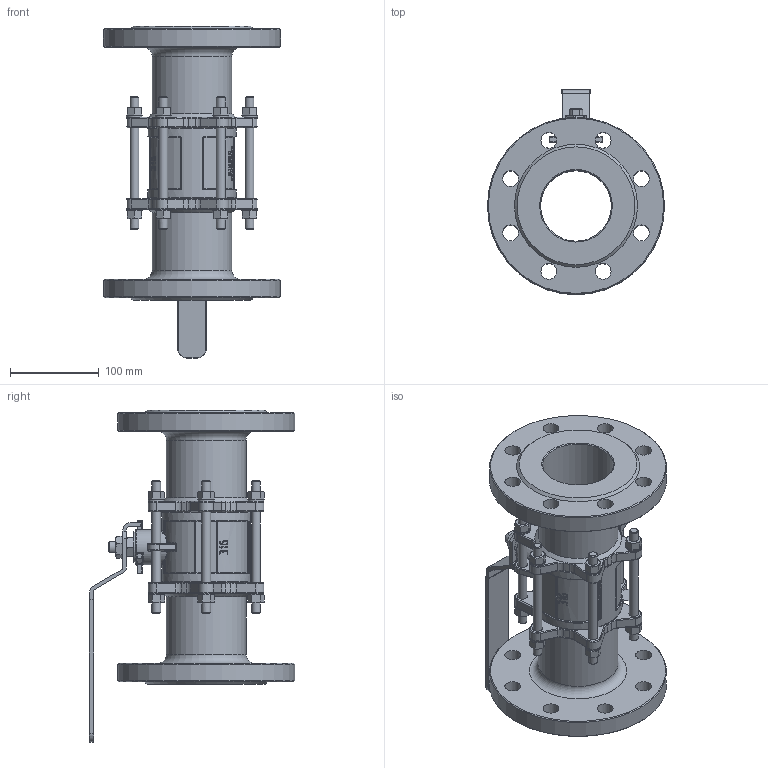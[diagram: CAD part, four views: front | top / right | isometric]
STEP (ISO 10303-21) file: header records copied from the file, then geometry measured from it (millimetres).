
FILE_DESCRIPTION(('STEP AP214'), '1');
FILE_NAME('BV3232P(3pc)-FP-F-H - Êðàí øàðîâîé DN.ru Äó80 Ðó25', '', ('UNSPECIFIED'), ('UNSPECIFIED'), 'C3D Converter', 'C3D Toolkit', '');
FILE_SCHEMA(('AUTOMOTIVE_DESIGN { 1 0 10303 214 3 1 1}'));
Length unit declared in the file: millimetre
Products named in the file (1): BV3232P(3pc)-FP-F-H
Bounding box: 200 x 232 x 375 mm (x, y, z)
Surface area: 379400.1 mm2
Topology: 6 solids, 12 shells, 1791 faces, 4411 edges, 2724 vertices
Faces by surface type: plane 577, extrusion 424, cylinder 342, cone 200, torus 151, bspline 65, sphere 32
Full cylindrical faces by diameter (mm): 10 x18, 10.5 x12, 11 x14, 18 x28, 34.454 x1, 40 x1, 80 x1, 90 x2, 100 x1, 200 x2
Entity records: 91289 total; most frequent: CARTESIAN_POINT 45772, ORIENTED_EDGE 8582, DIRECTION 7150, EDGE_CURVE 4303, VERTEX_POINT 2729, AXIS2_PLACEMENT_3D 2598, EDGE_LOOP 2061, VECTOR 1954
